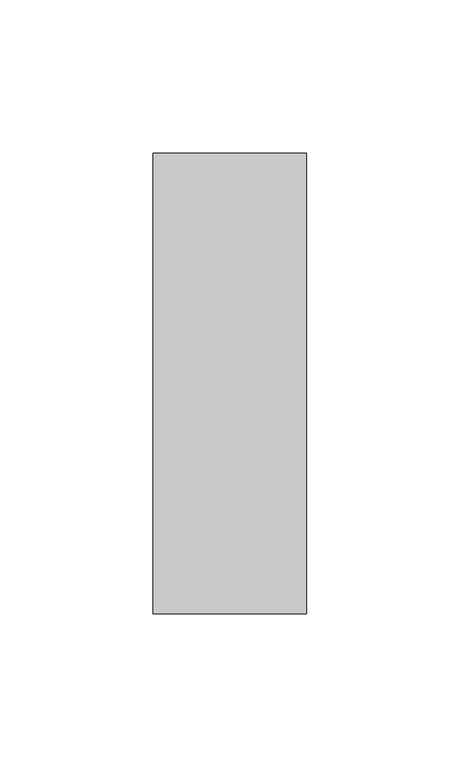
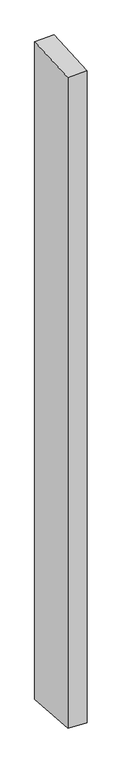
"""IFC4 building model written with IfcOpenShell, lengths in millimetres: member geometry, Прямоугольный импост : 50 x 150 мм."""

from ifc_helpers import new_model, si_unit, origin, place, context, project, spatial, faceted_brep, source, transform, mapped, element, save


def member_861ad6c7(model_context):
    return source(origin(), model_context, "Body", "Brep", [
        faceted_brep([(-25.0, 75.0, 2.9648745), (25.0, 75.0, 4.6498308), (25.0, 75.0, -1807.9510661), (-25.0, 75.0, -1805.78031), (-25.0, -75.0, -4.6498308), (-25.0, -75.0, -1794.4552802), (25.0, -75.0, -2.9648745), (25.0, -75.0, -1796.6260364)], [[[0, 1, 2, 3]], [[4, 0, 3, 5]], [[6, 4, 5, 7]], [[1, 6, 7, 2]], [[1, 0, 4, 6]], [[2, 7, 5, 3]]]),
    ])


if __name__ == "__main__":
    model = new_model("IFC4")
    model_context = context("Model", 3, world=origin())
    ifc_project = project(units=[si_unit("LENGTHUNIT", "METRE", prefix="MILLI")], contexts=[model_context])
    site = spatial("IfcSite", under=ifc_project)
    building = spatial("IfcBuilding", under=site)
    placement = place(None, origin())
    member_shape = member_861ad6c7(model_context)
    element("IfcMember", 1, ObjectType="Прямоугольный импост : 50 x 150 мм", at=placement, inside=building, context=model_context, shape_type="MappedRepresentation", body=[
        mapped(member_shape, transform((0.0, 0.0, 0.0), x_axis=(1.0, 0.0, 0.0), y_axis=(0.0, 1.0, 0.0), z_axis=(0.0, 0.0, 1.0))),
    ])
    save(model, "model.ifc")
